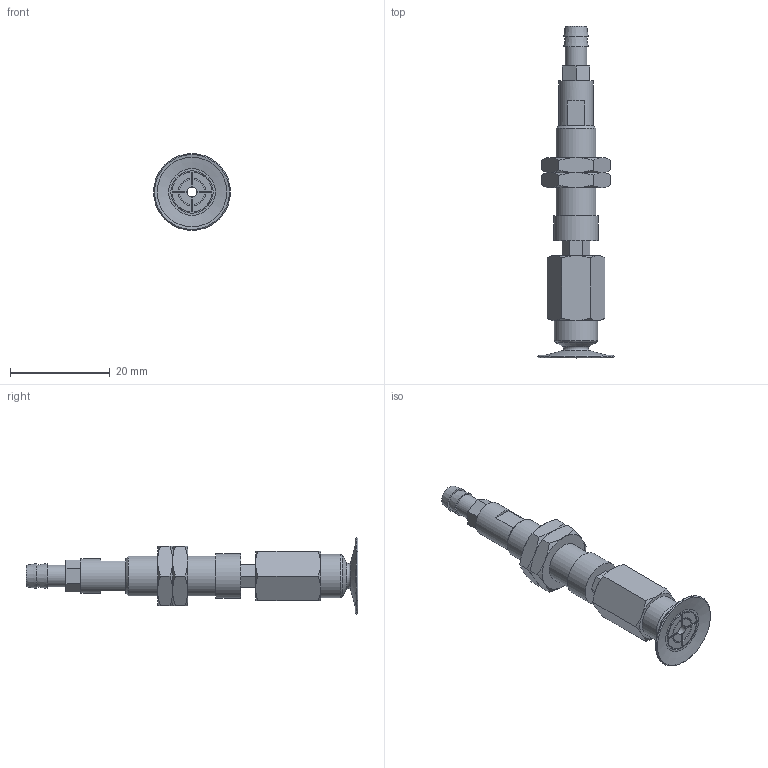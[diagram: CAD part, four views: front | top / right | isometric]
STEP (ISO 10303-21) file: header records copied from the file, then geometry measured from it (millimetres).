
FILE_DESCRIPTION(('STEP AP203'),'1');
FILE_NAME('-T.stp','2025-08-21T08:01:54',(' '),(' '),'Spatial InterOp 3D',' ',' ');
FILE_SCHEMA(('CONFIG_CONTROL_DESIGN'));
Length unit declared in the file: millimetre
Products named in the file (7): BNABPATH-15B-3-※-T; NAPATH-10A-3--F; Nut-10A-S; CONNECTOR-10A-3-T-PA; BPAG-15B-※; ADAPTER; NAPATH-10A-3--M
Assembly tree (7 placements, depth 2):
  BNABPATH-15B-3-※-T
    NAPATH-10A-3--F
    Nut-10A-S  x2
    CONNECTOR-10A-3-T-PA
    BPAG-15B-※
    ADAPTER
    NAPATH-10A-3--M
Bounding box: 15.4 x 66.5 x 15.4 mm (x, y, z)
Volume: 3581.2 mm3; surface area: 4612.5 mm2
Topology: 7 solids, 7 shells, 183 faces, 410 edges, 252 vertices
Faces by surface type: plane 85, cone 58, cylinder 30, torus 10
Full cylindrical faces by diameter (mm): 2 x3, 3 x1, 4 x2, 4.134 x1, 4.3 x1, 5 x1, 6 x2, 7 x1, 7.188 x2, 8 x1, 8.5 x1, 8.7 x1, 9 x1
Entity records: 4746 total; most frequent: CARTESIAN_POINT 1059, DIRECTION 696, ORIENTED_EDGE 622, EDGE_CURVE 311, AXIS2_PLACEMENT_3D 280, EDGE_LOOP 222, VERTEX_POINT 213, FACE_OUTER_BOUND 187
